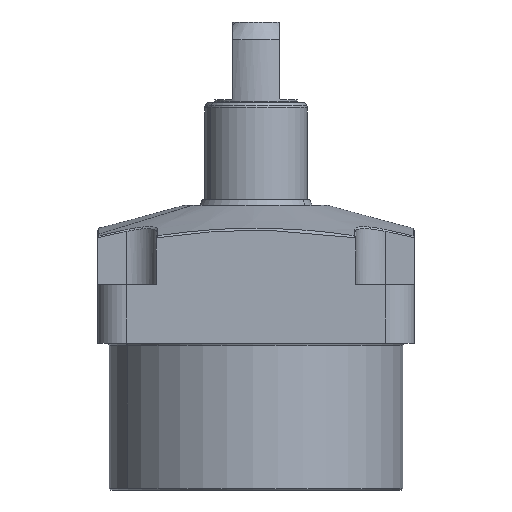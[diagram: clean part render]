
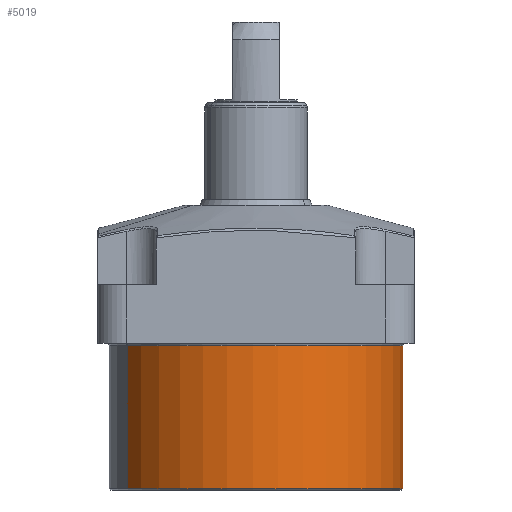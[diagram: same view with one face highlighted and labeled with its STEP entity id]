
A CAD part, left-side view. The second image highlights one B-rep face of the part: STEP entity #5019.
In plain terms, the highlighted cylindrical face has radius 50 mm (diameter 100 mm), a partial arc.
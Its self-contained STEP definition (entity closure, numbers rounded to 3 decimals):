
#4950=CARTESIAN_POINT('Vertex',(-23.971,43.879,49.2)) ;
#4953=CARTESIAN_POINT('Axis2P3D Location',(0.,0.,49.2)) ;
#4957=CARTESIAN_POINT('Vertex',(23.971,-43.879,49.2)) ;
#4989=CARTESIAN_POINT('Axis2P3D Location',(0.,0.,48.5)) ;
#4994=CARTESIAN_POINT('Line Origine',(-23.971,43.879,25.)) ;
#4998=CARTESIAN_POINT('Vertex',(-23.971,43.879,0.5)) ;
#5001=CARTESIAN_POINT('Axis2P3D Location',(0.,0.,0.5)) ;
#5005=CARTESIAN_POINT('Vertex',(23.971,-43.879,0.5)) ;
#5008=CARTESIAN_POINT('Line Origine',(23.971,-43.879,25.)) ;
#4954=DIRECTION('Axis2P3D Direction',(0.,0.,1.)) ;
#4990=DIRECTION('Axis2P3D Direction',(0.,0.,1.)) ;
#4991=DIRECTION('Axis2P3D XDirection',(-0.479,0.878,0.)) ;
#4995=DIRECTION('Vector Direction',(0.,0.,1.)) ;
#5002=DIRECTION('Axis2P3D Direction',(0.,0.,1.)) ;
#5009=DIRECTION('Vector Direction',(0.,0.,1.)) ;
#4955=AXIS2_PLACEMENT_3D('Circle Axis2P3D',#4953,#4954,$) ;
#4992=AXIS2_PLACEMENT_3D('Cylinder Axis2P3D',#4989,#4990,#4991) ;
#5003=AXIS2_PLACEMENT_3D('Circle Axis2P3D',#5001,#5002,$) ;
#5014=ORIENTED_EDGE('',*,*,#5000,.F.) ;
#5015=ORIENTED_EDGE('',*,*,#5007,.T.) ;
#5016=ORIENTED_EDGE('',*,*,#5012,.T.) ;
#5017=ORIENTED_EDGE('',*,*,#4959,.T.) ;
#4996=VECTOR('Line Direction',#4995,1.) ;
#5010=VECTOR('Line Direction',#5009,1.) ;
#5019=ADVANCED_FACE('',(#5018),#4993,.T.) ;
#4956=CIRCLE('generated circle',#4955,50.) ;
#5004=CIRCLE('generated circle',#5003,50.) ;
#4993=CYLINDRICAL_SURFACE('generated cylinder',#4992,50.) ;
#4959=EDGE_CURVE('',#4958,#4951,#4956,.F.) ;
#5000=EDGE_CURVE('',#4999,#4951,#4997,.T.) ;
#5007=EDGE_CURVE('',#4999,#5006,#5004,.T.) ;
#5012=EDGE_CURVE('',#5006,#4958,#5011,.T.) ;
#5013=EDGE_LOOP('',(#5014,#5015,#5016,#5017)) ;
#5018=FACE_OUTER_BOUND('',#5013,.T.) ;
#4997=LINE('Line',#4994,#4996) ;
#5011=LINE('Line',#5008,#5010) ;
#4951=VERTEX_POINT('',#4950) ;
#4958=VERTEX_POINT('',#4957) ;
#4999=VERTEX_POINT('',#4998) ;
#5006=VERTEX_POINT('',#5005) ;
